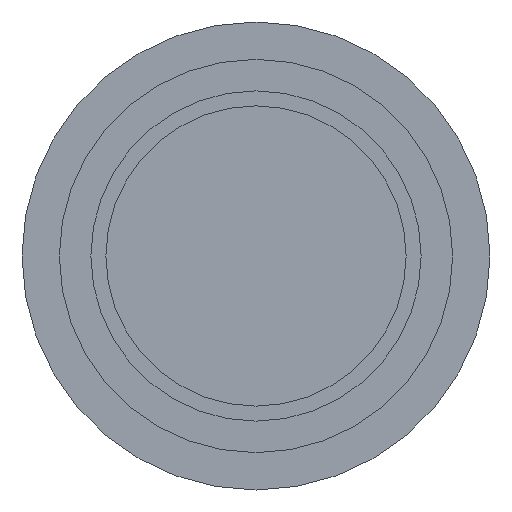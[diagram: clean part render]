
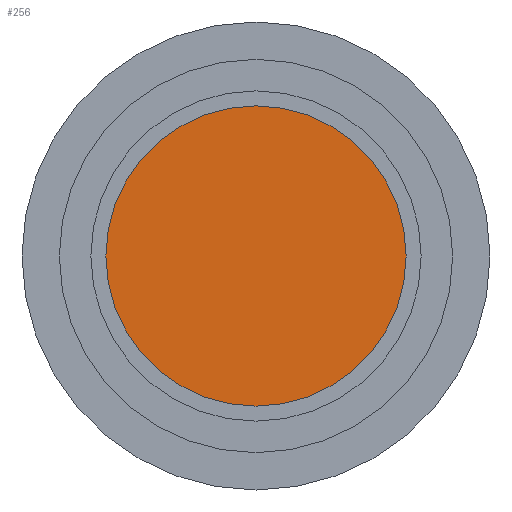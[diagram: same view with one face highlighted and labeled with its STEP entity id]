
A CAD part, left-side view. The second image highlights one B-rep face of the part: STEP entity #256.
In plain terms, the highlighted planar face has unit normal (-1, 0, 0).
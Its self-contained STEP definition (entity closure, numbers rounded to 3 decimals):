
#24=PLANE($,#304);
#68=FACE_OUTER_BOUND($,#112,.T.);
#112=EDGE_LOOP($,(#222));
#114=CIRCLE($,#262,2.54);
#136=VERTEX_POINT($,#401);
#158=EDGE_CURVE($,#136,#136,#114,.T.);
#222=ORIENTED_EDGE($,*,*,#158,.F.);
#256=ADVANCED_FACE($,(#68),#24,.T.);
#262=AXIS2_PLACEMENT_3D($,#402,#311,#312);
#304=AXIS2_PLACEMENT_3D($,#464,#395,#396);
#311=DIRECTION('center_axis',(1.,0.,0.));
#312=DIRECTION('ref_axis',(0.,1.,0.));
#395=DIRECTION('center_axis',(-1.,0.,0.));
#396=DIRECTION('ref_axis',(0.,0.,1.));
#401=CARTESIAN_POINT('',(0.,2.54,0.));
#402=CARTESIAN_POINT('Origin',(0.,0.,
0.));
#464=CARTESIAN_POINT('Origin',(0.,1.27,0.));
